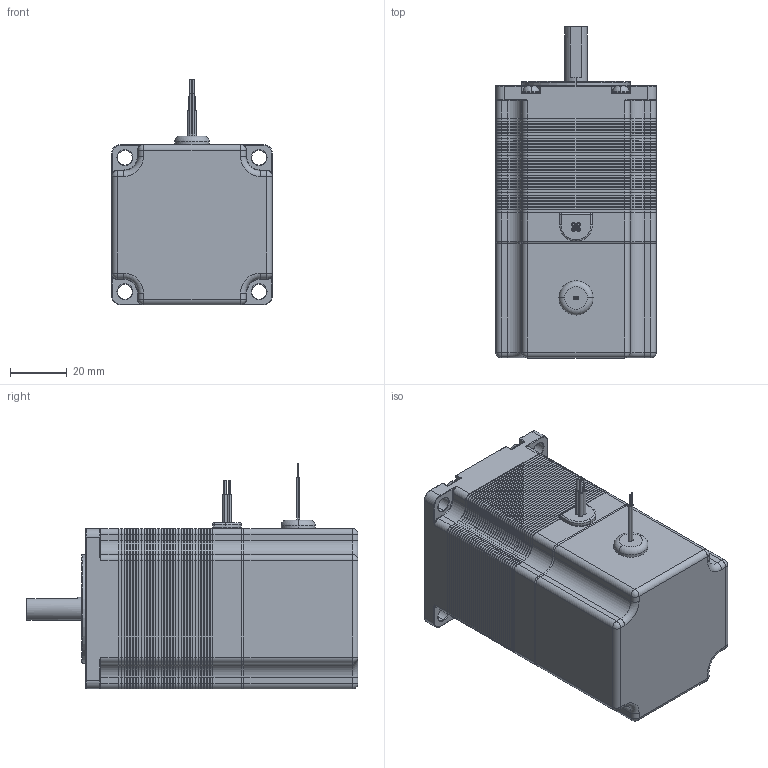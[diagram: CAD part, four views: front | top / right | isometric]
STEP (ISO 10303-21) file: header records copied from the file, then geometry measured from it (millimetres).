
FILE_DESCRIPTION (( 'STEP AP214' ), '1' );
FILE_NAME ('Nema 23 Stepper Motor length 56mm_8mm_BRK.STEP', '2021-08-24T09:34:09', ( '' ), ( '' ), 'SwSTEP 2.0', 'SolidWorks 2020', '' );
FILE_SCHEMA (( 'AUTOMOTIVE_DESIGN' ));
Length unit declared in the file: millimetre
Products named in the file (1): Nema 23 Stepper Motor length 56mm_8mm_BRK
Bounding box: 56.3 x 116.5 x 79.3 mm (x, y, z)
Volume: 275633 mm3; surface area: 222059.7 mm2
Topology: 49 solids, 50 shells, 2989 faces, 6800 edges, 3895 vertices
Faces by surface type: plane 1447, cone 820, cylinder 594, torus 100, sphere 20, bspline 8
Entity records: 111473 total; most frequent: DIRECTION 14826, CARTESIAN_POINT 14111, ORIENTED_EDGE 13544, EDGE_CURVE 6772, AXIS2_PLACEMENT_3D 5146, VECTOR 4534, LINE 4534, VERTEX_POINT 3895
